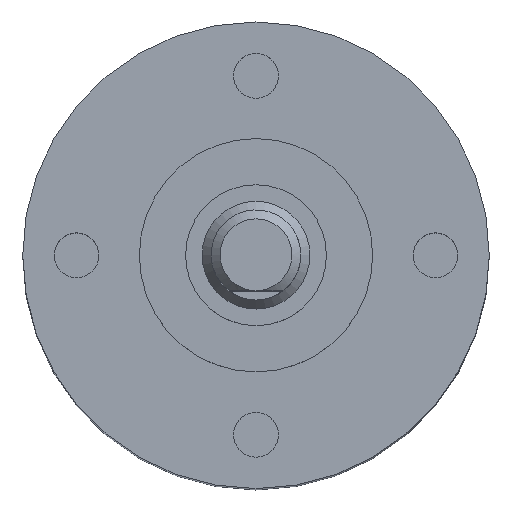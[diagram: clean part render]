
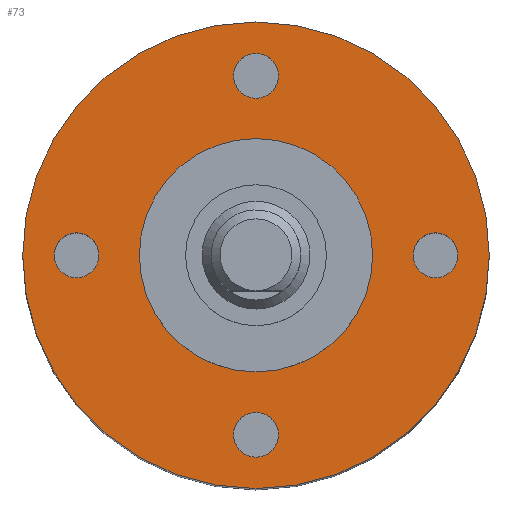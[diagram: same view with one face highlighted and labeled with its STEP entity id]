
A CAD part, top view. The second image highlights one B-rep face of the part: STEP entity #73.
In plain terms, the highlighted planar face has unit normal (0, 0, 1).
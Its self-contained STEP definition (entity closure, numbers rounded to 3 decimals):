
#73=ADVANCED_FACE('',(#131,#132,#133,#134,#135,#136),#103,.T.);
#103=PLANE('',#427);
#131=FACE_BOUND('',#184,.T.);
#132=FACE_BOUND('',#185,.T.);
#133=FACE_BOUND('',#186,.T.);
#134=FACE_BOUND('',#187,.T.);
#135=FACE_BOUND('',#188,.T.);
#136=FACE_BOUND('',#189,.T.);
#184=EDGE_LOOP('',(#251));
#185=EDGE_LOOP('',(#252));
#186=EDGE_LOOP('',(#253));
#187=EDGE_LOOP('',(#254));
#188=EDGE_LOOP('',(#255));
#189=EDGE_LOOP('',(#256));
#251=ORIENTED_EDGE('',*,*,#354,.T.);
#252=ORIENTED_EDGE('',*,*,#355,.T.);
#253=ORIENTED_EDGE('',*,*,#356,.T.);
#254=ORIENTED_EDGE('',*,*,#357,.T.);
#255=ORIENTED_EDGE('',*,*,#351,.T.);
#256=ORIENTED_EDGE('',*,*,#358,.F.);
#316=VERTEX_POINT('',#650);
#319=VERTEX_POINT('',#658);
#320=VERTEX_POINT('',#660);
#321=VERTEX_POINT('',#662);
#322=VERTEX_POINT('',#664);
#323=VERTEX_POINT('',#666);
#351=EDGE_CURVE('',#316,#316,#382,.T.);
#354=EDGE_CURVE('',#319,#319,#385,.T.);
#355=EDGE_CURVE('',#320,#320,#386,.T.);
#356=EDGE_CURVE('',#321,#321,#387,.T.);
#357=EDGE_CURVE('',#322,#322,#388,.T.);
#358=EDGE_CURVE('',#323,#323,#389,.T.);
#382=CIRCLE('',#417,6.5);
#385=CIRCLE('',#422,1.25);
#386=CIRCLE('',#423,1.25);
#387=CIRCLE('',#424,1.25);
#388=CIRCLE('',#425,1.25);
#389=CIRCLE('',#426,13.);
#417=AXIS2_PLACEMENT_3D('',#649,#497,#498);
#422=AXIS2_PLACEMENT_3D('',#657,#507,#508);
#423=AXIS2_PLACEMENT_3D('',#659,#509,#510);
#424=AXIS2_PLACEMENT_3D('',#661,#511,#512);
#425=AXIS2_PLACEMENT_3D('',#663,#513,#514);
#426=AXIS2_PLACEMENT_3D('',#665,#515,#516);
#427=AXIS2_PLACEMENT_3D('',#667,#517,#518);
#497=DIRECTION('',(0.,0.,-1.));
#498=DIRECTION('',(1.,0.,0.));
#507=DIRECTION('',(0.,0.,-1.));
#508=DIRECTION('',(0.,1.,0.));
#509=DIRECTION('',(0.,0.,-1.));
#510=DIRECTION('',(1.,0.,0.));
#511=DIRECTION('',(0.,0.,-1.));
#512=DIRECTION('',(0.,-1.,0.));
#513=DIRECTION('',(0.,0.,-1.));
#514=DIRECTION('',(-1.,0.,0.));
#515=DIRECTION('',(0.,0.,-1.));
#516=DIRECTION('',(-1.,0.,0.));
#517=DIRECTION('',(0.,0.,1.));
#518=DIRECTION('',(1.,0.,0.));
#649=CARTESIAN_POINT('',(0.,0.,0.));
#650=CARTESIAN_POINT('',(6.5,0.,0.));
#657=CARTESIAN_POINT('',(10.,0.,0.));
#658=CARTESIAN_POINT('',(10.,1.25,0.));
#659=CARTESIAN_POINT('',(0.,-10.,0.));
#660=CARTESIAN_POINT('',(1.25,-10.,0.));
#661=CARTESIAN_POINT('',(-10.,0.,0.));
#662=CARTESIAN_POINT('',(-10.,-1.25,0.));
#663=CARTESIAN_POINT('',(0.,10.,0.));
#664=CARTESIAN_POINT('',(-1.25,10.,0.));
#665=CARTESIAN_POINT('',(0.,0.,0.));
#666=CARTESIAN_POINT('',(-13.,0.,0.));
#667=CARTESIAN_POINT('',(0.,0.,0.));
